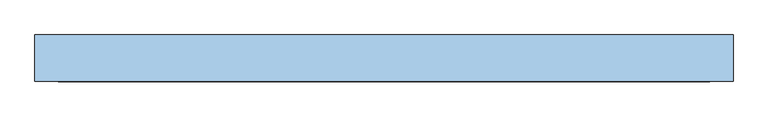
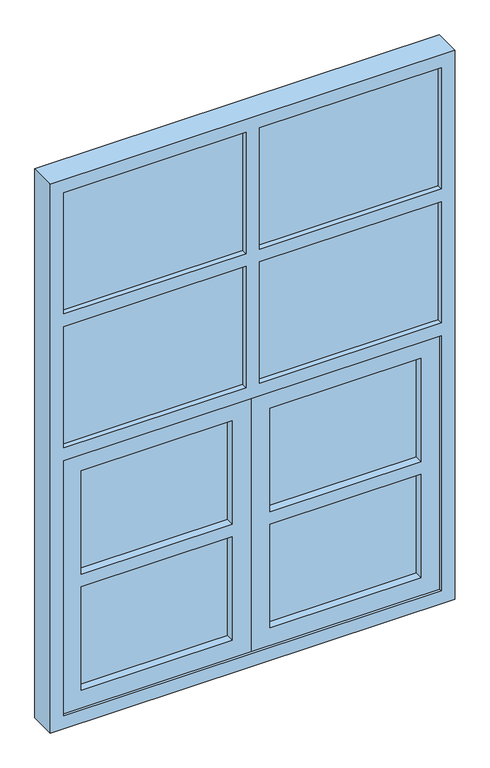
"""IFC4 building model written with IfcOpenShell, lengths in millimetres: window geometry, ARQ-VE-EX-215x170-Ace : ARQ-VE-EX-215x170-Ace."""

from ifc_helpers import new_model, si_unit, frame, origin, place, context, project, spatial, polyline, outline, extrude, source, transform, mapped, element, save


def window_49d07148(model_context):
    return source(origin(), model_context, "Body", "SweptSolid", [
        extrude(outline(polyline([(3200.0, -750.0), (1050.0, -750.0), (1050.0, 750.0), (3200.0, 750.0), (3200.0, -750.0)]), holes=[polyline([(2625.0, 700.0), (2150.0, 700.0), (2150.0, 25.0), (2625.0, 25.0), (2625.0, 700.0)]), polyline([(3150.0, 25.0), (3150.0, 700.0), (2675.0, 700.0), (2675.0, 25.0), (3150.0, 25.0)]), polyline([(2675.0, -700.0), (3150.0, -700.0), (3150.0, -25.0), (2675.0, -25.0), (2675.0, -700.0)]), polyline([(2100.0, 700.0), (1100.0, 700.0), (1100.0, -700.0), (2100.0, -700.0), (2100.0, 700.0)]), polyline([(2150.0, -25.0), (2150.0, -700.0), (2625.0, -700.0), (2625.0, -25.0), (2150.0, -25.0)])]), frame((0.0, 0.0, 0.0), z_axis=(0.0, 1.0, 0.0), x_axis=(0.0, 0.0, 1.0)), (0.0, 0.0, 1.0), 100.0),
        extrude(outline(polyline([(-25.0, 20.0), (-700.0, 20.0), (-700.0, 30.0), (-25.0, 30.0), (-25.0, 20.0)])), frame((0.0, 0.0, 2675.0), z_axis=(0.0, 0.0, 1.0), x_axis=(1.0, 0.0, 0.0)), (0.0, 0.0, 1.0), 475.0),
        extrude(outline(polyline([(700.0, 20.0), (25.0, 20.0), (25.0, 30.0), (700.0, 30.0), (700.0, 20.0)])), frame((0.0, 0.0, 2675.0), z_axis=(0.0, 0.0, 1.0), x_axis=(1.0, 0.0, 0.0)), (0.0, 0.0, 1.0), 475.0),
        extrude(outline(polyline([(-25.0, 20.0), (-700.0, 20.0), (-700.0, 30.0), (-25.0, 30.0), (-25.0, 20.0)])), frame((0.0, 0.0, 2150.0), z_axis=(0.0, 0.0, 1.0), x_axis=(1.0, 0.0, 0.0)), (0.0, 0.0, 1.0), 475.0),
        extrude(outline(polyline([(700.0, 20.0), (25.0, 20.0), (25.0, 30.0), (700.0, 30.0), (700.0, 20.0)])), frame((0.0, 0.0, 2150.0), z_axis=(0.0, 0.0, 1.0), x_axis=(1.0, 0.0, 0.0)), (0.0, 0.0, 1.0), 475.0),
        extrude(outline(polyline([(2100.0, 0.0), (2100.0, -700.0), (1100.0, -700.0), (1100.0, 0.0), (2100.0, 0.0)]), holes=[polyline([(1170.0, -70.0), (1170.0, -630.0), (1575.0, -630.0), (1575.0, -70.0), (1170.0, -70.0)]), polyline([(1625.0, -630.0), (2030.0, -630.0), (2030.0, -70.0), (1625.0, -70.0), (1625.0, -630.0)])]), frame((0.0, 10.0, 0.0), z_axis=(0.0, 1.0, 0.0), x_axis=(0.0, 0.0, 1.0)), (0.0, 0.0, 1.0), 80.0),
        extrude(outline(polyline([(-70.0, 40.0), (-630.0, 40.0), (-630.0, 60.0), (-70.0, 60.0), (-70.0, 40.0)])), frame((0.0, 0.0, 1625.0), z_axis=(0.0, 0.0, 1.0), x_axis=(1.0, 0.0, 0.0)), (0.0, 0.0, 1.0), 405.0),
        extrude(outline(polyline([(-70.0, 40.0), (-630.0, 40.0), (-630.0, 60.0), (-70.0, 60.0), (-70.0, 40.0)])), frame((0.0, 0.0, 1170.0), z_axis=(0.0, 0.0, 1.0), x_axis=(1.0, 0.0, 0.0)), (0.0, 0.0, 1.0), 405.0),
        extrude(outline(polyline([(630.0, 40.0), (70.0, 40.0), (70.0, 60.0), (630.0, 60.0), (630.0, 40.0)])), frame((0.0, 0.0, 1170.0), z_axis=(0.0, 0.0, 1.0), x_axis=(1.0, 0.0, 0.0)), (0.0, 0.0, 1.0), 405.0),
        extrude(outline(polyline([(630.0, 40.0), (70.0, 40.0), (70.0, 60.0), (630.0, 60.0), (630.0, 40.0)])), frame((0.0, 0.0, 1625.0), z_axis=(0.0, 0.0, 1.0), x_axis=(1.0, 0.0, 0.0)), (0.0, 0.0, 1.0), 405.0),
        extrude(outline(polyline([(2100.0, 0.0), (1100.0, 0.0), (1100.0, 700.0), (2100.0, 700.0), (2100.0, 0.0)]), holes=[polyline([(1170.0, 70.0), (1575.0, 70.0), (1575.0, 630.0), (1170.0, 630.0), (1170.0, 70.0)]), polyline([(1625.0, 630.0), (1625.0, 70.0), (2030.0, 70.0), (2030.0, 630.0), (1625.0, 630.0)])]), frame((0.0, 10.0, 0.0), z_axis=(0.0, 1.0, 0.0), x_axis=(0.0, 0.0, 1.0)), (0.0, 0.0, 1.0), 80.0),
    ])


if __name__ == "__main__":
    model = new_model("IFC4")
    model_context = context("Model", 3, world=origin())
    ifc_project = project(units=[si_unit("LENGTHUNIT", "METRE", prefix="MILLI")], contexts=[model_context])
    site = spatial("IfcSite", under=ifc_project)
    building = spatial("IfcBuilding", under=site)
    placement = place(None, origin())
    window_shape = window_49d07148(model_context)
    element("IfcWindow", 1, ObjectType="ARQ-VE-EX-215x170-Ace : ARQ-VE-EX-215x170-Ace", at=placement, inside=building, context=model_context, shape_type="MappedRepresentation", body=[
        mapped(window_shape, transform((0.0, 0.0, 0.0), x_axis=(1.0, 0.0, 0.0), y_axis=(0.0, 1.0, 0.0), z_axis=(0.0, 0.0, 1.0))),
    ])
    save(model, "model.ifc")
